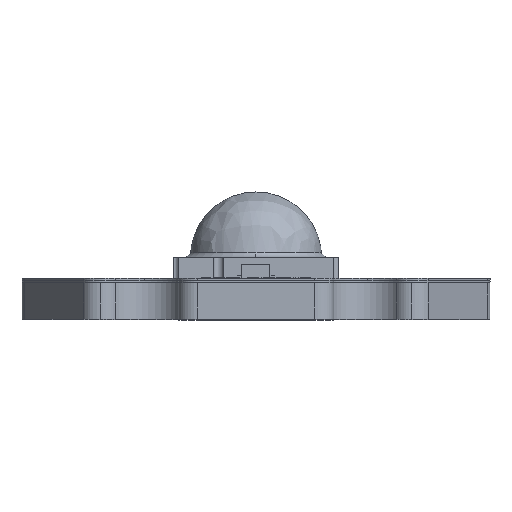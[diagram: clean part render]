
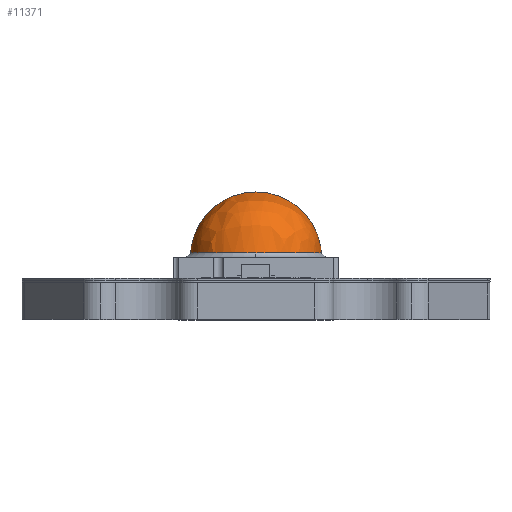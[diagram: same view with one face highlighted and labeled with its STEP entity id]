
A CAD part, top view. The second image highlights one B-rep face of the part: STEP entity #11371.
In plain terms, the highlighted free-form (B-spline) face has degree [3, 3] with [4, 4] control points.
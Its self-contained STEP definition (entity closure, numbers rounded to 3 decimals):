
#10081 = ORIENTED_EDGE ( 'NONE', *, *, #11569, .T. ) ;
#10083 = ORIENTED_EDGE ( 'NONE', *, *, #11568, .T. ) ;
#11371 = ADVANCED_FACE ( 'NONE', ( #33465 ), #27219, .T. ) ;
#11568 = EDGE_CURVE ( 'NONE', #36131, #36132, #31878, .T. ) ;
#11569 = EDGE_CURVE ( 'NONE', #36132, #36131, #31843, .T. ) ;
#14032 = EDGE_LOOP ( 'NONE', ( #10081, #10083 ) ) ;
#27219 =( BOUNDED_SURFACE ( )  B_SPLINE_SURFACE ( 3, 3, ( 
 ( #33488, #33489, #33490, #33491 ),
 ( #33492, #33493, #33494, #33495 ),
 ( #33496, #33497, #33498, #33499 ),
 ( #33500, #33501, #33502, #33503 ) ),
 .UNSPECIFIED., .F., .F., .F. ) 
 B_SPLINE_SURFACE_WITH_KNOTS ( ( 4, 4 ),
 ( 4, 4 ),
 ( 0., 1. ),
 ( 0., 1. ),
 .UNSPECIFIED. ) 
 GEOMETRIC_REPRESENTATION_ITEM ( )  RATIONAL_B_SPLINE_SURFACE ( (
 ( 1., 0.805, 0.805, 1.),
 ( 0.333, 0.268, 0.268, 0.333),
 ( 0.333, 0.268, 0.268, 0.333),
 ( 1., 0.805, 0.805, 1.) ) ) 
 REPRESENTATION_ITEM ( '' )  SURFACE ( )  );
#31843 = CIRCLE ( 'NONE', #31889, 2.8 ) ;
#31878 = CIRCLE ( 'NONE', #31884, 2.8 ) ;
#31884 = AXIS2_PLACEMENT_3D ( 'NONE', #34895, #34896, #34897 ) ;
#31889 = AXIS2_PLACEMENT_3D ( 'NONE', #34900, #34901, #34902 ) ;
#33465 = FACE_OUTER_BOUND ( 'NONE', #14032, .T. ) ;
#33488 = CARTESIAN_POINT ( 'NONE',  ( 2.8, 0.902, 0. ) ) ;
#33489 = CARTESIAN_POINT ( 'NONE',  ( 2.8, 0.902, 0. ) ) ;
#33490 = CARTESIAN_POINT ( 'NONE',  ( 2.8, 0.902, 0. ) ) ;
#33491 = CARTESIAN_POINT ( 'NONE',  ( 2.8, 0.902, 0. ) ) ;
#33492 = CARTESIAN_POINT ( 'NONE',  ( 2.8, 6.502, 0. ) ) ;
#33493 = CARTESIAN_POINT ( 'NONE',  ( 2.8, 6.502, 3.28 ) ) ;
#33494 = CARTESIAN_POINT ( 'NONE',  ( 2.8, 4.182, 5.6 ) ) ;
#33495 = CARTESIAN_POINT ( 'NONE',  ( 2.8, 0.902, 5.6 ) ) ;
#33496 = CARTESIAN_POINT ( 'NONE',  ( -2.8, 6.502, 0. ) ) ;
#33497 = CARTESIAN_POINT ( 'NONE',  ( -2.8, 6.502, 3.28 ) ) ;
#33498 = CARTESIAN_POINT ( 'NONE',  ( -2.8, 4.182, 5.6 ) ) ;
#33499 = CARTESIAN_POINT ( 'NONE',  ( -2.8, 0.902, 5.6 ) ) ;
#33500 = CARTESIAN_POINT ( 'NONE',  ( -2.8, 0.902, 0. ) ) ;
#33501 = CARTESIAN_POINT ( 'NONE',  ( -2.8, 0.902, 0. ) ) ;
#33502 = CARTESIAN_POINT ( 'NONE',  ( -2.8, 0.902, 0. ) ) ;
#33503 = CARTESIAN_POINT ( 'NONE',  ( -2.8, 0.902, 0. ) ) ;
#34895 = CARTESIAN_POINT ( 'NONE',  ( 0., 0.902, 0. ) ) ;
#34896 = DIRECTION ( 'NONE',  ( 0., 0., 1. ) ) ;
#34897 = DIRECTION ( 'NONE',  ( 1., 0., 0. ) ) ;
#34900 = CARTESIAN_POINT ( 'NONE',  ( 0., 0.902, 0. ) ) ;
#34901 = DIRECTION ( 'NONE',  ( 0., 1., 0. ) ) ;
#34902 = DIRECTION ( 'NONE',  ( 1., 0., 0. ) ) ;
#36131 = VERTEX_POINT ( 'NONE', #36845 ) ;
#36132 = VERTEX_POINT ( 'NONE', #36846 ) ;
#36845 = CARTESIAN_POINT ( 'NONE',  ( 2.8, 0.902, 0. ) ) ;
#36846 = CARTESIAN_POINT ( 'NONE',  ( -2.8, 0.902, 0. ) ) ;
